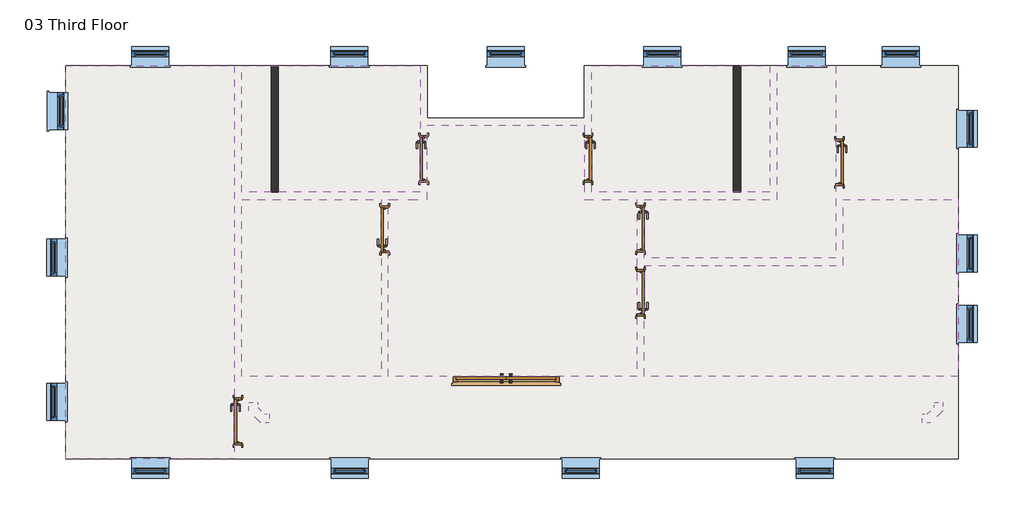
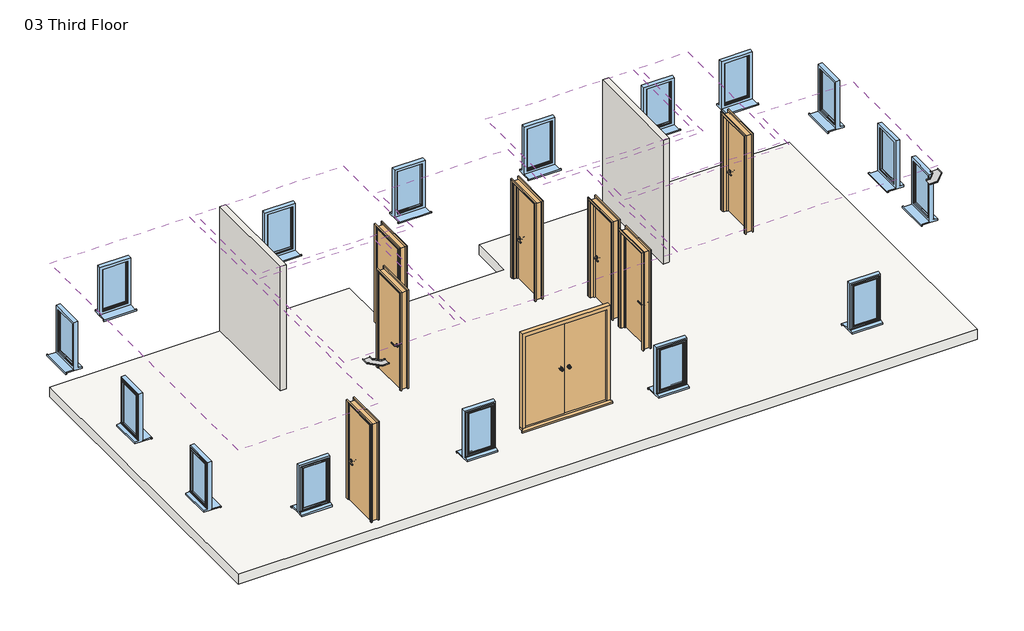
# One storey: 16 windows, 8 doors, 7 coverings, 2 cable carrier fittings, 2 walls, 1 slab.
"""IFC4 building model written with IfcOpenShell, lengths in millimetres."""

from ifc_helpers import new_model, si_unit, frame, origin, place, context, project, spatial, polyline, outline, extrude, transform, mapped, element, save
from components import cable_tray_horizontal_bend_standard_cea69160, extdbl_flush_1810_x_2110mm_182ebfd7, intsgl_1_810_x_2110mm_5ef26f82, intsgl_1_810_x_2110mm_60c2a13c, sgl_plain_630_x_1050mm_deep_554a1539

model = new_model("IFC4")

# Units and contexts
model_context = context("Model", 3, world=origin())
ifc_project = project(units=[si_unit("LENGTHUNIT", "METRE", prefix="MILLI")], contexts=[model_context])

# Site, building, storey
site = spatial("IfcSite", under=ifc_project)
building = spatial("IfcBuilding", under=site)
storey = spatial("IfcBuildingStorey", under=building, Name="03 Third Floor", Elevation=8000.0)

# Cable carrier fittings
placement = place(None, origin())
cable_tray_horizontal_bend_standard_shape = cable_tray_horizontal_bend_standard_cea69160(model_context)
element("IfcCableCarrierFitting", 1, ObjectType="Cable Tray Horizontal Bend : Standard", at=placement, inside=storey, context=model_context, shape_type="MappedRepresentation", body=[
    mapped(cable_tray_horizontal_bend_standard_shape, transform((8567.076402, -4128.3205251, 11000.0), x_axis=(1.0, 0.0, 0.0), y_axis=(0.0, 1.0, 0.0), z_axis=(0.0, 0.0, 1.0))),
])
element("IfcCableCarrierFitting", 2, ObjectType="Cable Tray Horizontal Bend : Standard", at=placement, inside=storey, context=model_context, shape_type="MappedRepresentation", body=[
    mapped(cable_tray_horizontal_bend_standard_shape, transform((-3112.923598, -4128.3205251, 11000.0), x_axis=(0.0, -1.0, 0.0), y_axis=(1.0, 0.0, 0.0), z_axis=(0.0, 0.0, 1.0))),
])

# Coverings
element("IfcCovering", 3, ObjectType="600 x 600mm grid 2", at=placement, inside=storey, context=model_context, shape_type="SweptSolid", body=[
    extrude(outline(polyline([(-3433.0198612, 1889.6075821), (-3433.0198612, -4820.3924179), (-6308.0198612, -4820.3924179), (-6308.0198612, 1889.6075821), (-3433.0198612, 1889.6075821)])), frame((0.0, 0.0, 10700.0), z_axis=(0.0, 0.0, 1.0), x_axis=(1.0, 0.0, 0.0)), (0.0, 0.0, 1.0), 52.0),
])
element("IfcCovering", 4, ObjectType="600 x 600mm grid 2", at=placement, inside=storey, context=model_context, shape_type="SweptSolid", body=[
    extrude(outline(polyline([(-3308.0198612, 1889.6075821), (-270.5198612, 1889.6075821), (-270.5198612, -265.3924179), (-3308.0198612, -265.3924179), (-3308.0198612, 1889.6075821)])), frame((0.0, 0.0, 10700.0), z_axis=(0.0, 0.0, 1.0), x_axis=(1.0, 0.0, 0.0)), (0.0, 0.0, 1.0), 52.0),
])
element("IfcCovering", 5, ObjectType="600 x 600mm grid 2", at=placement, inside=storey, context=model_context, shape_type="SweptSolid", body=[
    extrude(outline(polyline([(-3308.0198612, -390.3924179), (-933.0198612, -390.3924179), (-933.0198612, -3407.8924179), (-3308.0198612, -3407.8924179), (-3308.0198612, -390.3924179)])), frame((0.0, 0.0, 10700.0), z_axis=(0.0, 0.0, 1.0), x_axis=(1.0, 0.0, 0.0)), (0.0, 0.0, 1.0), 52.0),
])
element("IfcCovering", 6, ObjectType="600 x 600mm grid 2", at=placement, inside=storey, context=model_context, shape_type="SweptSolid", body=[
    extrude(outline(polyline([(-808.0198612, -390.3924179), (-145.5198612, -390.3924179), (-145.5198612, 872.1075821), (2529.4801388, 872.1075821), (2529.4801388, -390.3924179), (3426.9801388, -390.3924179), (3426.9801388, -3407.8924179), (-808.0198612, -3407.8924179), (-808.0198612, -390.3924179)])), frame((0.0, 0.0, 10700.0), z_axis=(0.0, 0.0, 1.0), x_axis=(1.0, 0.0, 0.0)), (0.0, 0.0, 1.0), 52.0),
])
element("IfcCovering", 7, ObjectType="600 x 600mm grid 2", at=placement, inside=storey, context=model_context, shape_type="SweptSolid", body=[
    extrude(outline(polyline([(2654.4801388, 1889.6075821), (5691.9801388, 1889.6075821), (5691.9801388, -265.3924179), (2654.4801388, -265.3924179), (2654.4801388, 1889.6075821)])), frame((0.0, 0.0, 10700.0), z_axis=(0.0, 0.0, 1.0), x_axis=(1.0, 0.0, 0.0)), (0.0, 0.0, 1.0), 52.0),
])
element("IfcCovering", 8, ObjectType="600 x 600mm grid 2", at=placement, inside=storey, context=model_context, shape_type="SweptSolid", body=[
    extrude(outline(polyline([(5816.9801388, 1889.6075821), (6816.9801388, 1889.6075821), (6816.9801388, -1390.3924179), (3551.9801388, -1390.3924179), (3551.9801388, -390.3924179), (5816.9801388, -390.3924179), (5816.9801388, 1889.6075821)])), frame((0.0, 0.0, 10700.0), z_axis=(0.0, 0.0, 1.0), x_axis=(1.0, 0.0, 0.0)), (0.0, 0.0, 1.0), 52.0),
])
element("IfcCovering", 9, ObjectType="600 x 600mm grid 2", at=placement, inside=storey, context=model_context, shape_type="SweptSolid", body=[
    extrude(outline(polyline([(8901.9801388, -390.3924179), (8901.9801388, -3407.8924179), (3551.9801388, -3407.8924179), (3551.9801388, -1515.3924179), (6941.9801388, -1515.3924179), (6941.9801388, -390.3924179), (8901.9801388, -390.3924179)])), frame((0.0, 0.0, 10700.0), z_axis=(0.0, 0.0, 1.0), x_axis=(1.0, 0.0, 0.0)), (0.0, 0.0, 1.0), 52.0),
])

# Doors
extdbl_flush_1810_x_2110mm_shape = extdbl_flush_1810_x_2110mm_182ebfd7(model_context)
element("IfcDoor", 10, ObjectType="ExtDbl Flush : 1810 x 2110mm", at=placement, inside=storey, context=model_context, shape_type="MappedRepresentation", body=[
    mapped(extdbl_flush_1810_x_2110mm_shape, transform((1196.9801388, -3470.3924179, 8000.0), x_axis=(1.0, 0.0, 0.0), y_axis=(0.0, 1.0, 0.0), z_axis=(0.0, 0.0, 1.0))),
])
intsgl_1_810_x_2110mm_shape = intsgl_1_810_x_2110mm_5ef26f82(model_context)
element("IfcDoor", 11, ObjectType="IntSgl (1) : 810 x 2110mm", at=placement, inside=storey, context=model_context, shape_type="MappedRepresentation", body=[
    mapped(intsgl_1_810_x_2110mm_shape, transform((-208.0198612, 303.3575821, 8000.0), x_axis=(0.0, -1.0, 0.0), y_axis=(1.0, 0.0, 0.0), z_axis=(0.0, 0.0, 1.0))),
])
element("IfcDoor", 12, ObjectType="IntSgl (1) : 810 x 2110mm", at=placement, inside=storey, context=model_context, shape_type="MappedRepresentation", body=[
    mapped(intsgl_1_810_x_2110mm_shape, transform((3489.4801388, -1982.8924179, 8000.0), x_axis=(0.0, 1.0, 0.0), y_axis=(-1.0, 0.0, 0.0), z_axis=(0.0, 0.0, 1.0))),
])
intsgl_1_810_x_2110mm_2_shape = intsgl_1_810_x_2110mm_60c2a13c(model_context)
element("IfcDoor", 13, ObjectType="IntSgl (1) : 810 x 2110mm", at=placement, inside=storey, context=model_context, shape_type="MappedRepresentation", body=[
    mapped(intsgl_1_810_x_2110mm_2_shape, transform((2591.9801388, 303.3575821, 8000.0), x_axis=(0.0, -1.0, 0.0), y_axis=(1.0, 0.0, 0.0), z_axis=(0.0, 0.0, 1.0))),
])
element("IfcDoor", 14, ObjectType="IntSgl (1) : 810 x 2110mm", at=placement, inside=storey, context=model_context, shape_type="MappedRepresentation", body=[
    mapped(intsgl_1_810_x_2110mm_2_shape, transform((-870.5198612, -902.8924179, 8000.0), x_axis=(0.0, 1.0, 0.0), y_axis=(-1.0, 0.0, 0.0), z_axis=(0.0, 0.0, 1.0))),
])
element("IfcDoor", 15, ObjectType="IntSgl (1) : 810 x 2110mm", at=placement, inside=storey, context=model_context, shape_type="MappedRepresentation", body=[
    mapped(intsgl_1_810_x_2110mm_2_shape, transform((3489.4801388, -890.3924179, 8000.0), x_axis=(0.0, -1.0, 0.0), y_axis=(1.0, 0.0, 0.0), z_axis=(0.0, 0.0, 1.0))),
])
element("IfcDoor", 16, ObjectType="IntSgl (1) : 810 x 2110mm", at=placement, inside=storey, context=model_context, shape_type="MappedRepresentation", body=[
    mapped(intsgl_1_810_x_2110mm_shape, transform((-3370.5198612, -4176.6424179, 8000.0), x_axis=(0.0, -1.0, 0.0), y_axis=(1.0, 0.0, 0.0), z_axis=(0.0, 0.0, 1.0))),
])
element("IfcDoor", 17, ObjectType="IntSgl (1) : 810 x 2110mm", at=placement, inside=storey, context=model_context, shape_type="MappedRepresentation", body=[
    mapped(intsgl_1_810_x_2110mm_2_shape, transform((6879.4801388, 239.6075821, 8000.0), x_axis=(0.0, -1.0, 0.0), y_axis=(1.0, 0.0, 0.0), z_axis=(0.0, 0.0, 1.0))),
])

# Slab
element("IfcSlab", 18, ObjectType="160mm Concrete with Corus-ComFlor 51", at=placement, inside=storey, context=model_context, shape_type="SweptSolid", body=[
    extrude(outline(polyline([(8901.9801388, -4820.3924179), (-6308.0198612, -4820.3924179), (-6308.0198612, 1889.6075821), (-145.5198612, 1889.6075821), (-145.5198612, 997.1075821), (2529.4801388, 997.1075821), (2529.4801388, 1889.6075821), (8901.9801388, 1889.6075821), (8901.9801388, -4820.3924179)])), frame((0.0, 0.0, 7789.0), z_axis=(0.0, 0.0, 1.0), x_axis=(1.0, 0.0, 0.0)), (0.0, 0.0, 1.0), 211.0),
])

# Walls
element("IfcWall", 19, ObjectType="Partn - p 100 p - Block", at=placement, inside=storey, context=model_context, shape_type="SweptSolid", body=[
    extrude(outline(polyline([(5066.9801388, -265.3924179), (5066.9801388, 1889.6075821), (5191.9801388, 1889.6075821), (5191.9801388, -265.3924179), (5066.9801388, -265.3924179)])), frame((0.0, 0.0, 8000.0), z_axis=(0.0, 0.0, 1.0), x_axis=(1.0, 0.0, 0.0)), (0.0, 0.0, 1.0), 2700.0),
])
element("IfcWall", 20, ObjectType="Partn - p 100 p - Block", at=placement, inside=storey, context=model_context, shape_type="SweptSolid", body=[
    extrude(outline(polyline([(-2683.0198612, 1889.6075821), (-2683.0198612, -265.3924179), (-2808.0198612, -265.3924179), (-2808.0198612, 1889.6075821), (-2683.0198612, 1889.6075821)])), frame((0.0, 0.0, 8000.0), z_axis=(0.0, 0.0, 1.0), x_axis=(1.0, 0.0, 0.0)), (0.0, 0.0, 1.0), 2700.0),
])

# Windows
sgl_plain_630_x_1050mm_deep_shape = sgl_plain_630_x_1050mm_deep_554a1539(model_context)
element("IfcWindow", 21, ObjectType="Sgl Plain : 630 x 1050mm Deep", at=placement, inside=storey, context=model_context, shape_type="MappedRepresentation", body=[
    mapped(sgl_plain_630_x_1050mm_deep_shape, transform((-6461.476429, 1117.4075821, 8000.0), x_axis=(0.0, -1.0, 0.0), y_axis=(1.0, 0.0, 0.0), z_axis=(0.0, 0.0, 1.0))),
])
element("IfcWindow", 22, ObjectType="Sgl Plain : 630 x 1050mm Deep", at=placement, inside=storey, context=model_context, shape_type="MappedRepresentation", body=[
    mapped(sgl_plain_630_x_1050mm_deep_shape, transform((6453.3801388, -4956.9358501, 8000.0), x_axis=(-1.0, 0.0, 0.0), y_axis=(0.0, -1.0, 0.0), z_axis=(0.0, 0.0, 1.0))),
])
element("IfcWindow", 23, ObjectType="Sgl Plain : 630 x 1050mm Deep", at=placement, inside=storey, context=model_context, shape_type="MappedRepresentation", body=[
    mapped(sgl_plain_630_x_1050mm_deep_shape, transform((2470.5801388, -4956.9358501, 8000.0), x_axis=(-1.0, 0.0, 0.0), y_axis=(0.0, -1.0, 0.0), z_axis=(0.0, 0.0, 1.0))),
])
element("IfcWindow", 24, ObjectType="Sgl Plain : 630 x 1050mm Deep", at=placement, inside=storey, context=model_context, shape_type="MappedRepresentation", body=[
    mapped(sgl_plain_630_x_1050mm_deep_shape, transform((-1469.0198612, -4956.9358501, 8000.0), x_axis=(-1.0, 0.0, 0.0), y_axis=(0.0, -1.0, 0.0), z_axis=(0.0, 0.0, 1.0))),
])
element("IfcWindow", 25, ObjectType="Sgl Plain : 630 x 1050mm Deep", at=placement, inside=storey, context=model_context, shape_type="MappedRepresentation", body=[
    mapped(sgl_plain_630_x_1050mm_deep_shape, transform((-4870.5198612, -4956.9358501, 8000.0), x_axis=(-1.0, 0.0, 0.0), y_axis=(0.0, -1.0, 0.0), z_axis=(0.0, 0.0, 1.0))),
])
element("IfcWindow", 26, ObjectType="Sgl Plain : 630 x 1050mm Deep", at=placement, inside=storey, context=model_context, shape_type="MappedRepresentation", body=[
    mapped(sgl_plain_630_x_1050mm_deep_shape, transform((-6444.5632933, -3844.9924179, 8000.0), x_axis=(0.0, 1.0, 0.0), y_axis=(-1.0, 0.0, 0.0), z_axis=(0.0, 0.0, 1.0))),
])
element("IfcWindow", 27, ObjectType="Sgl Plain : 630 x 1050mm Deep", at=placement, inside=storey, context=model_context, shape_type="MappedRepresentation", body=[
    mapped(sgl_plain_630_x_1050mm_deep_shape, transform((-6444.5632933, -1386.1924179, 8000.0), x_axis=(0.0, 1.0, 0.0), y_axis=(-1.0, 0.0, 0.0), z_axis=(0.0, 0.0, 1.0))),
])
element("IfcWindow", 28, ObjectType="Sgl Plain : 630 x 1050mm Deep", at=placement, inside=storey, context=model_context, shape_type="MappedRepresentation", body=[
    mapped(sgl_plain_630_x_1050mm_deep_shape, transform((-4870.5198612, 2026.1510143, 8000.0), x_axis=(1.0, 0.0, 0.0), y_axis=(0.0, 1.0, 0.0), z_axis=(0.0, 0.0, 1.0))),
])
element("IfcWindow", 29, ObjectType="Sgl Plain : 630 x 1050mm Deep", at=placement, inside=storey, context=model_context, shape_type="MappedRepresentation", body=[
    mapped(sgl_plain_630_x_1050mm_deep_shape, transform((-1476.7698612, 2026.1510143, 8000.0), x_axis=(1.0, 0.0, 0.0), y_axis=(0.0, 1.0, 0.0), z_axis=(0.0, 0.0, 1.0))),
])
element("IfcWindow", 30, ObjectType="Sgl Plain : 630 x 1050mm Deep", at=placement, inside=storey, context=model_context, shape_type="MappedRepresentation", body=[
    mapped(sgl_plain_630_x_1050mm_deep_shape, transform((1191.9801388, 2026.1510143, 8000.0), x_axis=(1.0, 0.0, 0.0), y_axis=(0.0, 1.0, 0.0), z_axis=(0.0, 0.0, 1.0))),
])
element("IfcWindow", 31, ObjectType="Sgl Plain : 630 x 1050mm Deep", at=placement, inside=storey, context=model_context, shape_type="MappedRepresentation", body=[
    mapped(sgl_plain_630_x_1050mm_deep_shape, transform((3860.7301388, 2026.1510143, 8000.0), x_axis=(1.0, 0.0, 0.0), y_axis=(0.0, 1.0, 0.0), z_axis=(0.0, 0.0, 1.0))),
])
element("IfcWindow", 32, ObjectType="Sgl Plain : 630 x 1050mm Deep", at=placement, inside=storey, context=model_context, shape_type="MappedRepresentation", body=[
    mapped(sgl_plain_630_x_1050mm_deep_shape, transform((6316.9801388, 2026.1510143, 8000.0), x_axis=(1.0, 0.0, 0.0), y_axis=(0.0, 1.0, 0.0), z_axis=(0.0, 0.0, 1.0))),
])
element("IfcWindow", 33, ObjectType="Sgl Plain : 630 x 1050mm Deep", at=placement, inside=storey, context=model_context, shape_type="MappedRepresentation", body=[
    mapped(sgl_plain_630_x_1050mm_deep_shape, transform((7921.9801388, 2026.1510143, 8000.0), x_axis=(1.0, 0.0, 0.0), y_axis=(0.0, 1.0, 0.0), z_axis=(0.0, 0.0, 1.0))),
])
element("IfcWindow", 34, ObjectType="Sgl Plain : 630 x 1050mm Deep", at=placement, inside=storey, context=model_context, shape_type="MappedRepresentation", body=[
    mapped(sgl_plain_630_x_1050mm_deep_shape, transform((9038.523571, 812.1075821, 8000.0), x_axis=(0.0, -1.0, 0.0), y_axis=(1.0, 0.0, 0.0), z_axis=(0.0, 0.0, 1.0))),
])
element("IfcWindow", 35, ObjectType="Sgl Plain : 630 x 1050mm Deep", at=placement, inside=storey, context=model_context, shape_type="MappedRepresentation", body=[
    mapped(sgl_plain_630_x_1050mm_deep_shape, transform((9038.523571, -1314.9924179, 8000.0), x_axis=(0.0, -1.0, 0.0), y_axis=(1.0, 0.0, 0.0), z_axis=(0.0, 0.0, 1.0))),
])
element("IfcWindow", 36, ObjectType="Sgl Plain : 630 x 1050mm Deep", at=placement, inside=storey, context=model_context, shape_type="MappedRepresentation", body=[
    mapped(sgl_plain_630_x_1050mm_deep_shape, transform((9038.523571, -2518.9424179, 8000.0), x_axis=(0.0, -1.0, 0.0), y_axis=(1.0, 0.0, 0.0), z_axis=(0.0, 0.0, 1.0))),
])

save(model, "model.ifc")
